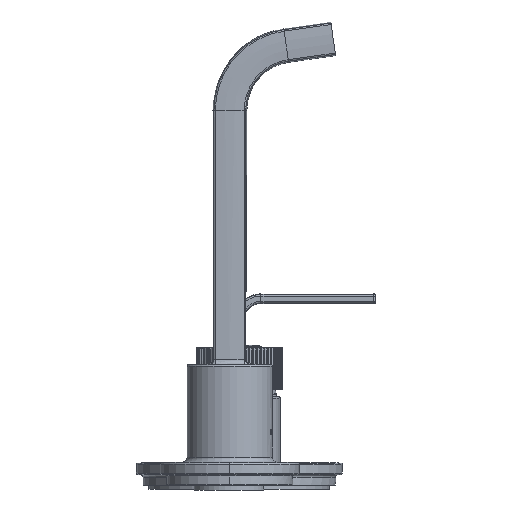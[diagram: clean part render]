
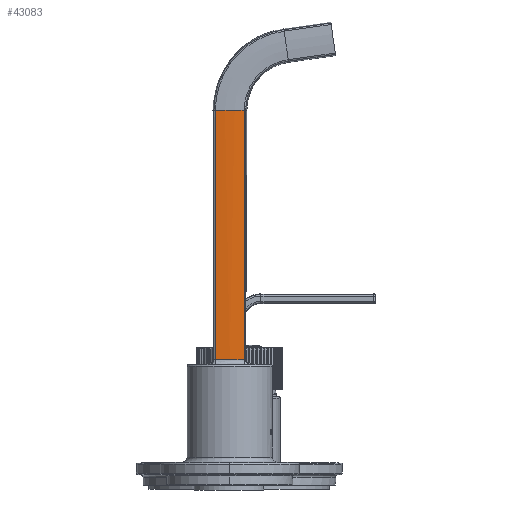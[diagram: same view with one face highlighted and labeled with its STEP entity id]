
A CAD part, left-side view. The second image highlights one B-rep face of the part: STEP entity #43083.
In plain terms, the highlighted cylindrical face has radius 90.976 mm (diameter 181.951 mm), a partial arc.
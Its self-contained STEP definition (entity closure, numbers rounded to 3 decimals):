
#5646 = EDGE_CURVE ( 'NONE', #27270, #58257, #18470, .T. ) ;
#6216 = CARTESIAN_POINT ( 'NONE',  ( -19.134, -8.689, 0. ) ) ;
#18175 = CARTESIAN_POINT ( 'NONE',  ( -19.69, -2.896, 75.87 ) ) ;
#18256 = EDGE_CURVE ( 'NONE', #96845, #58040, #22996, .T. ) ;
#18344 = ORIENTED_EDGE ( 'NONE', *, *, #18256, .T. ) ;
#18470 = LINE ( 'NONE', #59815, #105807 ) ;
#22971 = CYLINDRICAL_SURFACE ( 'NONE', #103990, 90.976 ) ;
#22996 = LINE ( 'NONE', #6216, #106508 ) ;
#27270 = VERTEX_POINT ( 'NONE', #45945 ) ;
#27791 = B_SPLINE_CURVE_WITH_KNOTS ( 'NONE', 3,
 ( #101833, #44804, #18175, #37149 ),
 .UNSPECIFIED., .F., .F.,
 ( 4, 4 ),
 ( 0., 0.017 ),
 .UNSPECIFIED. ) ;
#34772 = DIRECTION ( 'NONE',  ( 0., 0., -1. ) ) ;
#37149 = CARTESIAN_POINT ( 'NONE',  ( -19.134, -8.689, 75.808 ) ) ;
#39947 = CARTESIAN_POINT ( 'NONE',  ( 71.426, 0., 226. ) ) ;
#43083 = ADVANCED_FACE ( 'NONE', ( #64856 ), #22971, .T. ) ;
#44500 = CARTESIAN_POINT ( 'NONE',  ( -19.134, -8.689, 226. ) ) ;
#44804 = CARTESIAN_POINT ( 'NONE',  ( -19.69, 2.896, 75.87 ) ) ;
#45945 = CARTESIAN_POINT ( 'NONE',  ( -19.134, 8.689, 226. ) ) ;
#46385 = EDGE_LOOP ( 'NONE', ( #18344, #55433, #69704, #107168 ) ) ;
#51488 = CARTESIAN_POINT ( 'NONE',  ( -19.134, -8.689, 75.808 ) ) ;
#52391 = CIRCLE ( 'NONE', #97471, 90.976 ) ;
#53399 = EDGE_CURVE ( 'NONE', #27270, #58040, #52391, .T. ) ;
#55433 = ORIENTED_EDGE ( 'NONE', *, *, #53399, .F. ) ;
#56802 = DIRECTION ( 'NONE',  ( -1., 0., 0. ) ) ;
#58040 = VERTEX_POINT ( 'NONE', #44500 ) ;
#58257 = VERTEX_POINT ( 'NONE', #87646 ) ;
#59815 = CARTESIAN_POINT ( 'NONE',  ( -19.134, 8.689, 0. ) ) ;
#63902 = DIRECTION ( 'NONE',  ( 0., 0., 1. ) ) ;
#64856 = FACE_OUTER_BOUND ( 'NONE', #46385, .T. ) ;
#65398 = DIRECTION ( 'NONE',  ( 1., 0., 0. ) ) ;
#69704 = ORIENTED_EDGE ( 'NONE', *, *, #5646, .T. ) ;
#70898 = DIRECTION ( 'NONE',  ( 0., 0., 1. ) ) ;
#87646 = CARTESIAN_POINT ( 'NONE',  ( -19.134, 8.689, 75.808 ) ) ;
#96382 = DIRECTION ( 'NONE',  ( 0., 0., 1. ) ) ;
#96845 = VERTEX_POINT ( 'NONE', #51488 ) ;
#97370 = EDGE_CURVE ( 'NONE', #58257, #96845, #27791, .T. ) ;
#97471 = AXIS2_PLACEMENT_3D ( 'NONE', #39947, #63902, #56802 ) ;
#97972 = CARTESIAN_POINT ( 'NONE',  ( 71.426, 0., 0. ) ) ;
#101833 = CARTESIAN_POINT ( 'NONE',  ( -19.134, 8.689, 75.808 ) ) ;
#103990 = AXIS2_PLACEMENT_3D ( 'NONE', #97972, #96382, #65398 ) ;
#105807 = VECTOR ( 'NONE', #34772, 1000. ) ;
#106508 = VECTOR ( 'NONE', #70898, 1000. ) ;
#107168 = ORIENTED_EDGE ( 'NONE', *, *, #97370, .T. ) ;
